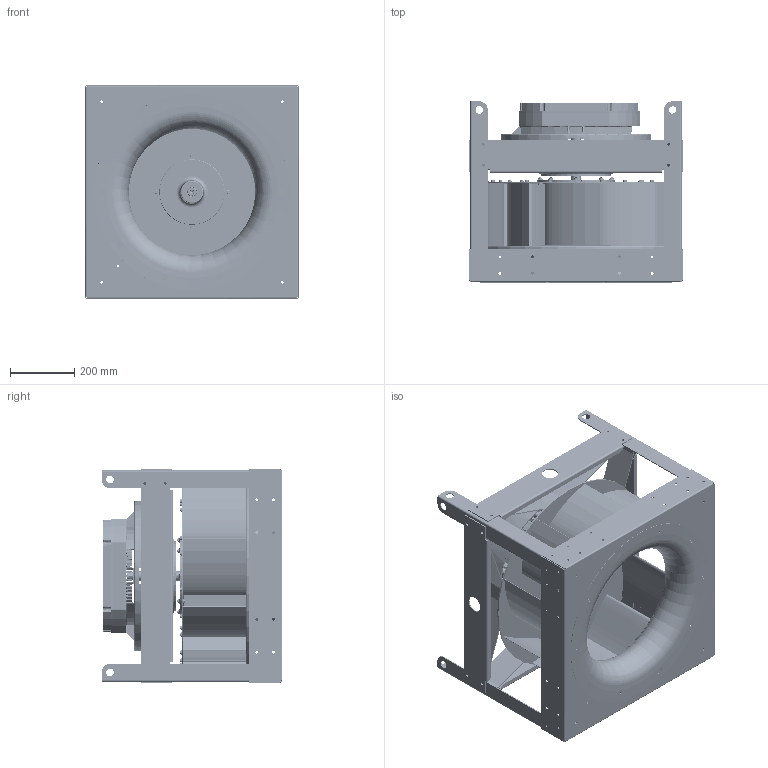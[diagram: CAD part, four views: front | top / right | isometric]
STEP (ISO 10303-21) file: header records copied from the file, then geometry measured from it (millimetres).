
FILE_DESCRIPTION (( 'STEP AP214' ), '1' );
FILE_NAME ('655775.STEP', '2026-06-10T20:23:04', ( '' ), ( '' ), 'SwSTEP 2.0', 'SolidWorks 2023', '' );
FILE_SCHEMA (( 'AUTOMOTIVE_DESIGN' ));
Length unit declared in the file: inch
Products named in the file (18): 651582_651582; SXP24 BAFFLE_682867; 655775; 651586_651586; SXP24 WHEEL WELDMENT_655673; SXP24 INLET ASSY_655568; SXP24 BLADE_651372; SXP24-9 BP_651497; 681533_681533; SXP24-9 FP_651374; 941044_941044; SXP24 INLET_651355; SXP24 WHEEL ASSY_655674; 941456_941456; SXPI STRAP_651579; 941457_941457; 651585_651585; 925770CS_925770CS
Assembly tree (86 placements, depth 4):
  655775
    651582_651582
    651585_651585  x4
    651586_651586  x4
    SXPI STRAP_651579  x4
    925770CS_925770CS
    SXP24 WHEEL ASSY_655674
      SXP24 WHEEL WELDMENT_655673
        SXP24-9 FP_651374
        SXP24 BLADE_651372  x9
        SXP24-9 BP_651497
        941044_941044  x36
      681533_681533
      941456_941456  x8
      941457_941457  x8
    SXP24 INLET ASSY_655568
      SXP24 INLET_651355
      SXP24 BAFFLE_682867  x4
Bounding box: 662.27 x 561.25 x 662.27 mm (x, y, z)
Volume: 14002504.9 mm3; surface area: 7473317.4 mm2
Topology: 101 solids, 101 shells, 13764 faces, 33402 edges, 19615 vertices
Faces by surface type: bspline 3770, cylinder 3684, plane 2590, cone 1856, torus 1456, sphere 408
Full cylindrical faces by diameter (mm): 4.762 x1, 4.763 x17, 5.156 x10, 6.35 x46, 7.137 x64, 7.544 x2, 7.95 x2, 8.738 x84, 13.208 x44, 15.088 x8, 20.32 x10, 25.4 x8, 50.8 x4, 202.819 x1, 203.2 x1, 241.3 x1, 534.416 x1, 629.695 x1
Entity records: 441388 total; most frequent: CARTESIAN_POINT 207666, ORIENTED_EDGE 51882, DIRECTION 44612, EDGE_CURVE 25941, AXIS2_PLACEMENT_3D 18673, VERTEX_POINT 15387, EDGE_LOOP 12240, FACE_OUTER_BOUND 11326
